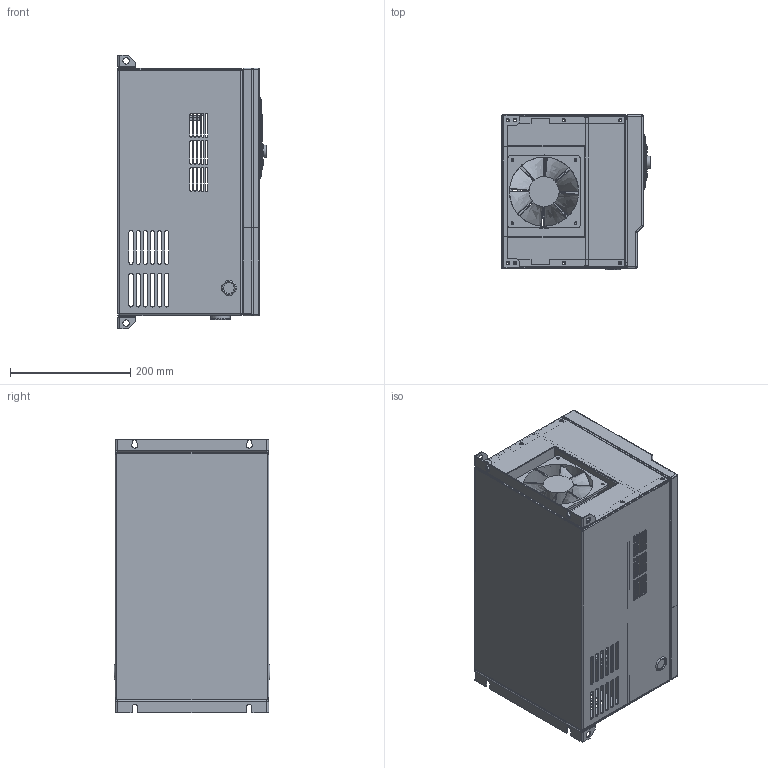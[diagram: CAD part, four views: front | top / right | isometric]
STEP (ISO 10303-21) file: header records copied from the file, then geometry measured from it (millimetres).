
FILE_DESCRIPTION(('STEP AP203'), '1');
FILE_NAME('Ïðåîáðàçîâàòåëü ÷àñòîòû _ LCI-G45_P55-4', '', ('UNSPECIFIED'), ('UNSPECIFIED'), 'C3D Converter', 'C3D Toolkit', '');
FILE_SCHEMA(('CONFIG_CONTROL_DESIGN'));
Length unit declared in the file: millimetre
Products named in the file (16): LCI-G45_P55-4; LCI-G45; LCI-MF-B; LCI-KP
Assembly tree (17 placements, depth 2):
  LCI-G45_P55-4
    LCI-G45
    LCI-G45
    LCI-G45
    LCI-G45
    LCI-G45
    LCI-G45
    LCI-G45
    LCI-MF-B
    LCI-KP
    LCI-G45  x2
    LCI-G45
    LCI-G45  x2
    LCI-G45
    LCI-G45
    LCI-G45
Bounding box: 246.7 x 259 x 455 mm (x, y, z)
Volume: 1204491.9 mm3; surface area: 1409970.8 mm2
Topology: 23 solids, 23 shells, 1482 faces, 3806 edges, 2368 vertices
Faces by surface type: plane 893, cylinder 492, torus 44, bspline 36, sphere 13, cone 4
Full cylindrical faces by diameter (mm): 3.5 x8, 4 x16, 4.4 x8, 5 x8, 5.6 x16, 5.9 x6, 10.7 x4, 18 x4, 20 x5, 21 x1, 25 x4, 32 x2, 115 x1, 119 x1, 122 x1
Entity records: 47482 total; most frequent: CARTESIAN_POINT 10267, DIRECTION 7324, ORIENTED_EDGE 7180, EDGE_CURVE 3590, LINE 2536, VECTOR 2536, AXIS2_PLACEMENT_3D 2394, VERTEX_POINT 2302
